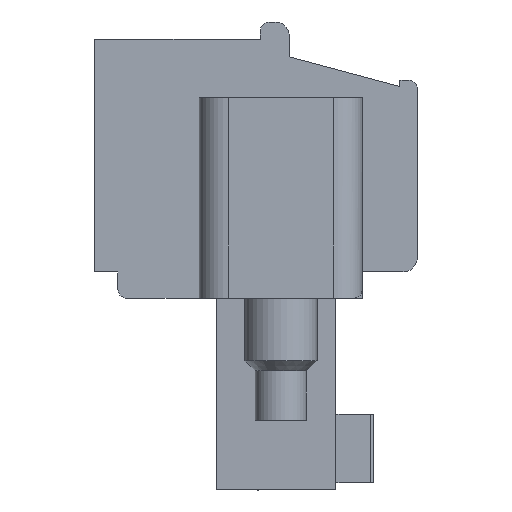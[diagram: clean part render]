
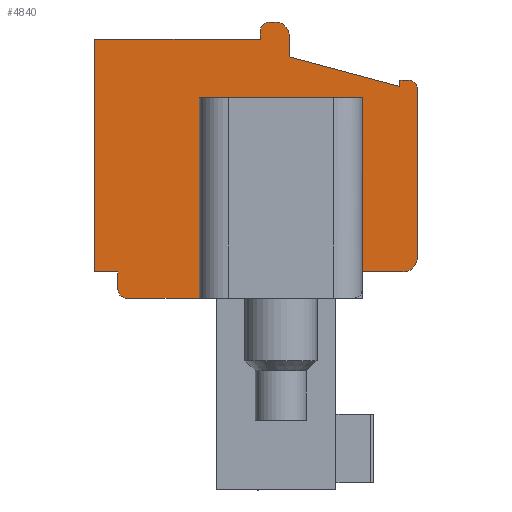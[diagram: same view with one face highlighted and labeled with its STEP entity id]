
A CAD part, front view. The second image highlights one B-rep face of the part: STEP entity #4840.
In plain terms, the highlighted planar face has unit normal (0, -1, 0).
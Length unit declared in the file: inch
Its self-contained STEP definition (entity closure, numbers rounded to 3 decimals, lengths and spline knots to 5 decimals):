
#234=DIRECTION('',(0.,0.,1.));
#235=VECTOR('',#234,0.02362);
#236=CARTESIAN_POINT('',(-0.33536,-1.21618,
2.78781));
#237=LINE('',#236,#235);
#331=DIRECTION('',(0.,0.,1.));
#332=VECTOR('',#331,0.01181);
#333=CARTESIAN_POINT('',(-0.14245,-1.21618,
3.12639));
#334=LINE('',#333,#332);
#384=DIRECTION('',(1.,0.,0.));
#385=VECTOR('',#384,0.22441);
#386=CARTESIAN_POINT('',(-0.36686,-1.21618,
3.12639));
#387=LINE('',#386,#385);
#677=DIRECTION('',(1.,0.,0.));
#678=VECTOR('',#677,0.09843);
#679=CARTESIAN_POINT('',(-0.32355,-1.21618,2.776));
#680=LINE('',#679,#678);
#681=CARTESIAN_POINT('',(-0.32355,-1.21618,
2.78781));
#682=DIRECTION('',(0.,-1.,0.));
#683=DIRECTION('',(-1.,0.,0.));
#684=AXIS2_PLACEMENT_3D('',#681,#682,#683);
#686=CARTESIAN_POINT('',(-0.13064,-1.21618,
3.1382));
#687=DIRECTION('',(0.,-1.,0.));
#688=DIRECTION('',(0.,0.,1.));
#689=AXIS2_PLACEMENT_3D('',#686,#687,#688);
#691=CARTESIAN_POINT('',(-0.12276,-1.21618,
3.13033));
#692=DIRECTION('',(0.,-1.,0.));
#693=DIRECTION('',(1.,0.,0.));
#694=AXIS2_PLACEMENT_3D('',#691,#692,#693);
#696=DIRECTION('',(-0.966,0.,0.259));
#697=VECTOR('',#696,0.15488);
#698=CARTESIAN_POINT('',(0.04653,-1.21618,3.06268));
#699=LINE('',#698,#697);
#700=CARTESIAN_POINT('',(0.05834,-1.21618,3.05946));
#701=DIRECTION('',(0.,-1.,0.));
#702=DIRECTION('',(1.,0.,0.));
#703=AXIS2_PLACEMENT_3D('',#700,#701,#702);
#705=CARTESIAN_POINT('',(0.05046,-1.21618,2.83112));
#706=DIRECTION('',(0.,-1.,0.));
#707=DIRECTION('',(0.,0.,-1.));
#708=AXIS2_PLACEMENT_3D('',#705,#706,#707);
#710=DIRECTION('',(1.,0.,0.));
#711=VECTOR('',#710,0.05512);
#712=CARTESIAN_POINT('',(-0.00465,-1.21618,
2.81143));
#713=LINE('',#712,#711);
#714=DIRECTION('',(0.,0.,-1.));
#715=VECTOR('',#714,0.27165);
#716=CARTESIAN_POINT('',(-0.22513,-1.21618,
3.04765));
#717=LINE('',#716,#715);
#718=DIRECTION('',(-1.,0.,0.));
#719=VECTOR('',#718,0.22047);
#720=CARTESIAN_POINT('',(-0.00465,-1.21618,
3.04765));
#721=LINE('',#720,#719);
#754=DIRECTION('',(0.,0.,1.));
#755=VECTOR('',#754,0.23622);
#756=CARTESIAN_POINT('',(-0.00465,-1.21618,
2.81143));
#757=LINE('',#756,#755);
#875=DIRECTION('',(0.,0.,-1.));
#876=VECTOR('',#875,0.22835);
#877=CARTESIAN_POINT('',(0.07015,-1.21618,3.05946));
#878=LINE('',#877,#876);
#1111=DIRECTION('',(1.,0.,0.));
#1112=VECTOR('',#1111,0.01181);
#1113=CARTESIAN_POINT('',(0.04653,-1.21618,
3.07128));
#1114=LINE('',#1113,#1112);
#1123=DIRECTION('',(0.,0.,1.));
#1124=VECTOR('',#1123,0.00859);
#1125=CARTESIAN_POINT('',(0.04653,-1.21618,
3.06268));
#1126=LINE('',#1125,#1124);
#1131=DIRECTION('',(0.,0.,-1.));
#1132=VECTOR('',#1131,0.02756);
#1133=CARTESIAN_POINT('',(-0.10308,-1.21618,
3.13033));
#1134=LINE('',#1133,#1132);
#1143=DIRECTION('',(1.,0.,0.));
#1144=VECTOR('',#1143,0.00787);
#1145=CARTESIAN_POINT('',(-0.13064,-1.21618,
3.15002));
#1146=LINE('',#1145,#1144);
#2502=DIRECTION('',(-1.,0.,0.));
#2503=VECTOR('',#2502,0.0315);
#2504=CARTESIAN_POINT('',(-0.33536,-1.21618,
2.81143));
#2505=LINE('',#2504,#2503);
#2506=DIRECTION('',(0.,0.,1.));
#2507=VECTOR('',#2506,0.31496);
#2508=CARTESIAN_POINT('',(-0.36686,-1.21618,
2.81143));
#2509=LINE('',#2508,#2507);
#3463=CARTESIAN_POINT('',(-0.13064,-1.21618,
3.15002));
#3464=CARTESIAN_POINT('',(-0.14245,-1.21618,
3.1382));
#3465=VERTEX_POINT('',#3463);
#3466=VERTEX_POINT('',#3464);
#3644=CARTESIAN_POINT('',(-0.14245,-1.21618,
3.12639));
#3645=VERTEX_POINT('',#3644);
#3650=CARTESIAN_POINT('',(-0.36686,-1.21618,
2.81143));
#3651=VERTEX_POINT('',#3650);
#3652=CARTESIAN_POINT('',(-0.33536,-1.21618,
2.81143));
#3653=VERTEX_POINT('',#3652);
#3674=CARTESIAN_POINT('',(-0.36686,-1.21618,
3.12639));
#3675=VERTEX_POINT('',#3674);
#3732=CARTESIAN_POINT('',(-0.12276,-1.21618,
3.15002));
#3733=VERTEX_POINT('',#3732);
#3757=CARTESIAN_POINT('',(-0.10308,-1.21618,
3.13033));
#3758=VERTEX_POINT('',#3757);
#3813=CARTESIAN_POINT('',(-0.33536,-1.21618,
2.78781));
#3814=CARTESIAN_POINT('',(-0.32355,-1.21618,2.776));
#3815=VERTEX_POINT('',#3813);
#3816=VERTEX_POINT('',#3814);
#3896=CARTESIAN_POINT('',(-0.00465,-1.21618,
3.04765));
#3897=VERTEX_POINT('',#3896);
#3898=CARTESIAN_POINT('',(-0.00465,-1.21618,
2.81143));
#3899=VERTEX_POINT('',#3898);
#3936=CARTESIAN_POINT('',(-0.22513,-1.21618,2.776));
#3937=VERTEX_POINT('',#3936);
#4005=CARTESIAN_POINT('',(0.07015,-1.21618,
2.83112));
#4006=VERTEX_POINT('',#4005);
#4007=CARTESIAN_POINT('',(0.07015,-1.21618,
3.05946));
#4008=VERTEX_POINT('',#4007);
#4030=CARTESIAN_POINT('',(0.05834,-1.21618,
3.07128));
#4031=VERTEX_POINT('',#4030);
#4032=CARTESIAN_POINT('',(0.04653,-1.21618,
3.07128));
#4033=VERTEX_POINT('',#4032);
#4034=CARTESIAN_POINT('',(0.04653,-1.21618,
3.06268));
#4035=VERTEX_POINT('',#4034);
#4036=CARTESIAN_POINT('',(-0.10308,-1.21618,
3.10277));
#4037=VERTEX_POINT('',#4036);
#4038=CARTESIAN_POINT('',(0.05046,-1.21618,
2.81143));
#4039=VERTEX_POINT('',#4038);
#4040=CARTESIAN_POINT('',(-0.22513,-1.21618,
3.04765));
#4041=VERTEX_POINT('',#4040);
#4796=CARTESIAN_POINT('',(-2.03461,-1.21618,
3.02188));
#4797=DIRECTION('',(0.,1.,0.));
#4798=DIRECTION('',(0.,0.,1.));
#4799=AXIS2_PLACEMENT_3D('',#4796,#4797,#4798);
#4800=PLANE('',#4799);
#4802=ORIENTED_EDGE('',*,*,#4801,.T.);
#4803=ORIENTED_EDGE('',*,*,#4241,.F.);
#4804=ORIENTED_EDGE('',*,*,#4333,.F.);
#4805=ORIENTED_EDGE('',*,*,#4351,.T.);
#4807=ORIENTED_EDGE('',*,*,#4806,.T.);
#4809=ORIENTED_EDGE('',*,*,#4808,.T.);
#4810=ORIENTED_EDGE('',*,*,#4480,.T.);
#4811=ORIENTED_EDGE('',*,*,#4425,.T.);
#4813=ORIENTED_EDGE('',*,*,#4812,.F.);
#4815=ORIENTED_EDGE('',*,*,#4814,.T.);
#4817=ORIENTED_EDGE('',*,*,#4816,.F.);
#4819=ORIENTED_EDGE('',*,*,#4818,.T.);
#4821=ORIENTED_EDGE('',*,*,#4820,.F.);
#4823=ORIENTED_EDGE('',*,*,#4822,.T.);
#4825=ORIENTED_EDGE('',*,*,#4824,.T.);
#4827=ORIENTED_EDGE('',*,*,#4826,.F.);
#4829=ORIENTED_EDGE('',*,*,#4828,.T.);
#4831=ORIENTED_EDGE('',*,*,#4830,.F.);
#4833=ORIENTED_EDGE('',*,*,#4832,.F.);
#4835=ORIENTED_EDGE('',*,*,#4834,.T.);
#4837=ORIENTED_EDGE('',*,*,#4836,.T.);
#4838=EDGE_LOOP('',(#4802,#4803,#4804,#4805,#4807,#4809,#4810,#4811,#4813,#4815,
#4817,#4819,#4821,#4823,#4825,#4827,#4829,#4831,#4833,#4835,#4837));
#4839=FACE_OUTER_BOUND('',#4838,.F.);
#4840=ADVANCED_FACE('',(#4839),#4800,.F.);
#685=CIRCLE('',#684,0.01181);
#690=CIRCLE('',#689,0.01181);
#695=CIRCLE('',#694,0.01969);
#704=CIRCLE('',#703,0.01181);
#709=CIRCLE('',#708,0.01969);
#4241=EDGE_CURVE('',#3816,#3937,#680,.T.);
#4333=EDGE_CURVE('',#3815,#3816,#685,.T.);
#4351=EDGE_CURVE('',#3815,#3653,#237,.T.);
#4425=EDGE_CURVE('',#3645,#3466,#334,.T.);
#4480=EDGE_CURVE('',#3675,#3645,#387,.T.);
#4801=EDGE_CURVE('',#4041,#3937,#717,.T.);
#4806=EDGE_CURVE('',#3653,#3651,#2505,.T.);
#4808=EDGE_CURVE('',#3651,#3675,#2509,.T.);
#4812=EDGE_CURVE('',#3465,#3466,#690,.T.);
#4814=EDGE_CURVE('',#3465,#3733,#1146,.T.);
#4816=EDGE_CURVE('',#3758,#3733,#695,.T.);
#4818=EDGE_CURVE('',#3758,#4037,#1134,.T.);
#4820=EDGE_CURVE('',#4035,#4037,#699,.T.);
#4822=EDGE_CURVE('',#4035,#4033,#1126,.T.);
#4824=EDGE_CURVE('',#4033,#4031,#1114,.T.);
#4826=EDGE_CURVE('',#4008,#4031,#704,.T.);
#4828=EDGE_CURVE('',#4008,#4006,#878,.T.);
#4830=EDGE_CURVE('',#4039,#4006,#709,.T.);
#4832=EDGE_CURVE('',#3899,#4039,#713,.T.);
#4834=EDGE_CURVE('',#3899,#3897,#757,.T.);
#4836=EDGE_CURVE('',#3897,#4041,#721,.T.);
